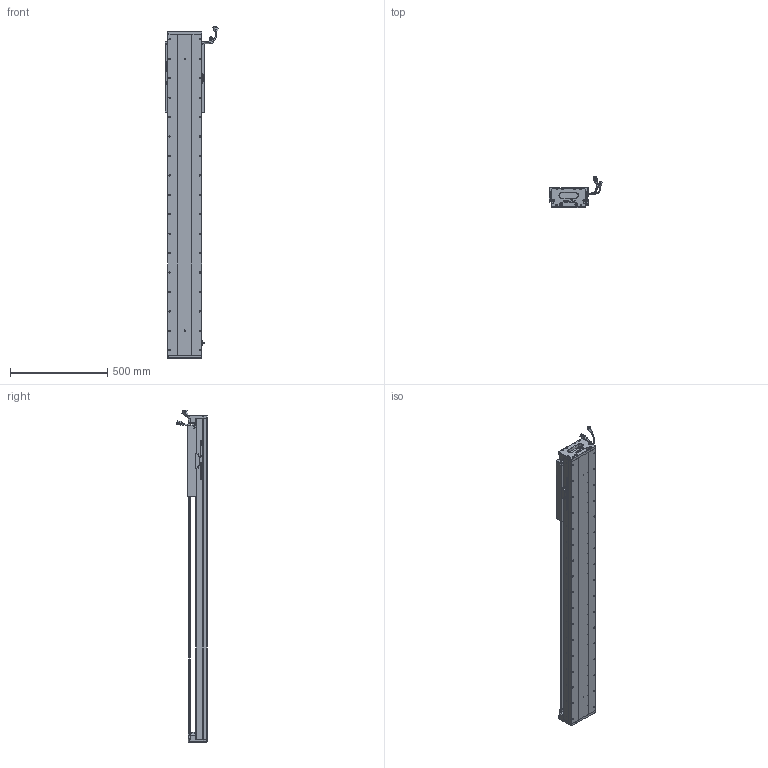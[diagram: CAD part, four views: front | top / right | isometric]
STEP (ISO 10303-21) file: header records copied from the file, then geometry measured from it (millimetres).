
FILE_DESCRIPTION (( 'STEP AP203' ), '1' );
FILE_NAME ('Z5-RY170D-1-L500-B-K.SLDASM_1200.step', '2021-05-18T00:40:20', ( '盈信电脑' ), ( '东莞市道滘镇水果街19号' ), 'SwSTEP 2.0', 'SolidWorks 2016', '' );
FILE_SCHEMA (( 'CONFIG_CONTROL_DESIGN' ));
Length unit declared in the file: millimetre
Products named in the file (36): HARNESS; Z5-RY170臏賑輸(21遴); Z5-RY170-L500耀郪菁釱_1200; SEAL-Part-1; HOLDER0; RY170直线电机感应器672光电感应片; COVER-Part-1; Z5-RY170D-1-L500-B-K.SLDASM_1200; Z5-RY170-L500詩湍145mm遵_1200; 140雄赽晤鎢ん堤盄; PSLH080_PSLF2; Z-RY170詩湍狟揤裔; COVER; SCREW-M1.6; SCREW-M1.6-3; HARNESS-Part-1; HARNESS-Part-2; LABEL-Part-1; SCREW-M1.6-1; SCREW-M1.7-1; Z-170詩湍傷裔啣; LABEL; 覜茼ん672; Z-RY170詩湍奻揤裔; SCREW-M1.6-2; 140蚥薯蝶輸; 榋妏寠巭燃_暯_M2_2; 170-Z-臏賑輸盄裔(21遴); SCREW-M1.7; SCALE-Part-1; PBU_SHEET; SCALE-Part-2; SEAL; SCALE; SHIELDPLATE; 080黍杅芛假蚾釱21遴
Assembly tree (41 placements, depth 4):
  Z5-RY170D-1-L500-B-K.SLDASM_1200
    Z5-RY170-L500耀郪菁釱_1200
    RY170直线电机感应器672光电感应片
    Z5-RY170臏賑輸(21遴)
    覜茼ん672  x3
    PSLH080_PSLF2
      SCALE
        SCALE-Part-1
        SCALE-Part-2
      HARNESS
        HARNESS-Part-1
        HARNESS-Part-2
      LABEL
        LABEL-Part-1
      COVER
        COVER-Part-1
      SEAL
        SEAL-Part-1
      榋妏寠巭燃_暯_M2_2
      SHIELDPLATE
      SCREW-M1.7
      SCREW-M1.7-1
      PBU_SHEET
      SCREW-M1.6
      SCREW-M1.6-1
      SCREW-M1.6-2
      SCREW-M1.6-3
      HOLDER0
    080黍杅芛假蚾釱21遴
    Z5-RY170-L500詩湍145mm遵_1200
    Z-170詩湍傷裔啣  x2
    Z-RY170詩湍奻揤裔  x2
    Z-RY170詩湍狟揤裔  x2
    140蚥薯蝶輸  x2
    170-Z-臏賑輸盄裔(21遴)
    140雄赽晤鎢ん堤盄
Bounding box: 275.33 x 158.11 x 1708.72 mm (x, y, z)
Volume: 9641469 mm3; surface area: 2287784.2 mm2
Topology: 36 solids, 36 shells, 3576 faces, 9733 edges, 6107 vertices
Faces by surface type: cylinder 1732, plane 1250, cone 472, torus 69, bspline 53
Entity records: 108925 total; most frequent: CARTESIAN_POINT 28922, ORIENTED_EDGE 16142, DIRECTION 15531, EDGE_CURVE 8071, AXIS2_PLACEMENT_3D 5730, VERTEX_POINT 5225, VECTOR 4071, LINE 4071
